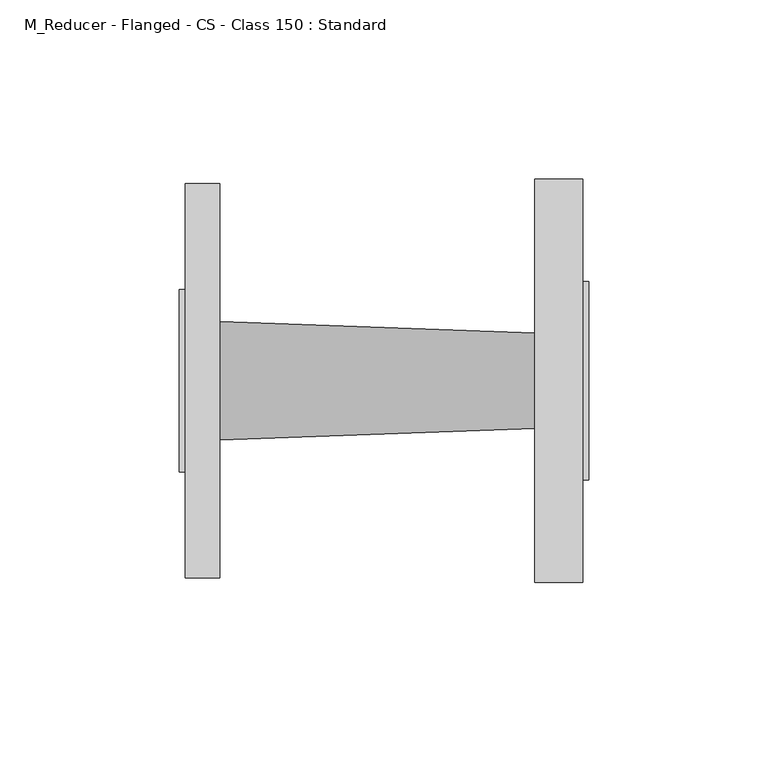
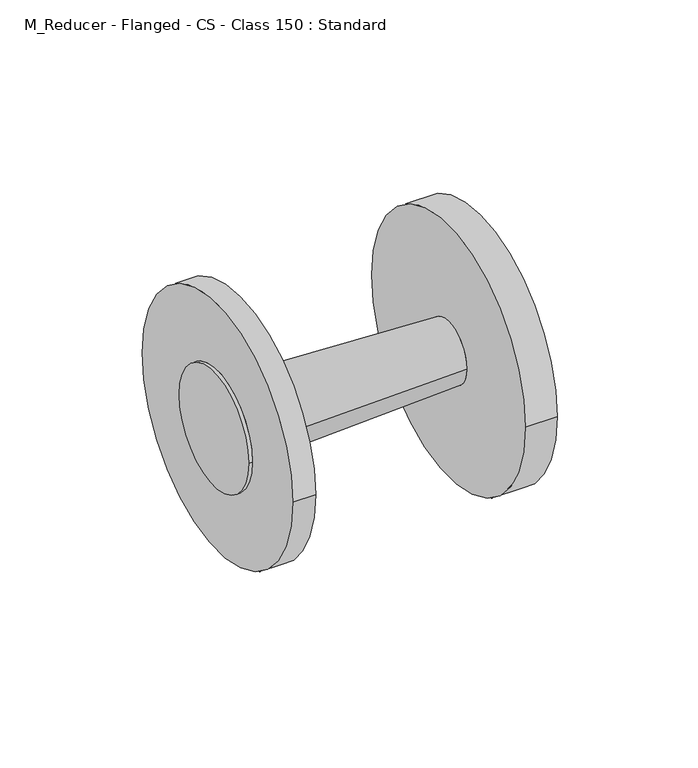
"""IFC4 building model written with IfcOpenShell, lengths in millimetres: pipe fitting geometry, M_Reducer - Flanged - CS - Class 150 : Standard."""

from ifc_helpers import new_model, si_unit, frame, origin, place, context, project, spatial, polyline, circle_curve, source, transform, mapped, element, save
from ifc_brep_helpers import plane_surface, cylinder_surface, revolved_surface, advanced_brep


def m_reducer_flanged_cs_class_150_standard_d42b2106(model_context):
    return source(origin(), model_context, "Body", "AdvancedBrep", [
        advanced_brep(
        [(11.1875, 55.0, 0.0), (11.1875, -55.0, 0.0), (11.1875, -16.5, 0.0), (11.1875, 16.5, 0.0), (1.5875, 55.0, 0.0), (1.5875, -55.0, 0.0), (1.5875, 25.4, 0.0), (1.5875, -25.4, 0.0), (99.0109375, 13.2558594, 0.0), (99.0109375, -13.2558594, 0.0), (112.4125, 56.1554688, 0.0), (112.4125, -56.1554687, 0.0), (112.4125, -27.5976562, 0.0), (112.4125, 27.5976563, 0.0), (99.0109375, 56.1554688, 0.0), (99.0109375, -56.1554687, 0.0), (0.0, 25.4, 0.0), (0.0, -25.4, 0.0), (114.0, 27.5976563, 0.0), (114.0, -27.5976562, 0.0)],
        [
            (0, 1, circle_curve(frame((11.1875, 0.0, 0.0), z_axis=(1.0, 0.0, 0.0), x_axis=(0.0, -1.0, 0.0)), 55.0)),
            (1, 0, circle_curve(frame((11.1875, 0.0, 0.0), z_axis=(1.0, 0.0, 0.0), x_axis=(0.0, -1.0, 0.0)), 55.0)),
            (2, 3, circle_curve(frame((11.1875, 0.0, 0.0), z_axis=(-1.0, 0.0, 0.0), x_axis=(0.0, -1.0, 0.0)), 16.5)),
            (3, 2, circle_curve(frame((11.1875, 0.0, 0.0), z_axis=(-1.0, 0.0, 0.0), x_axis=(0.0, 1.0, 0.0)), 16.5)),
            (4, 5, circle_curve(frame((1.5875, 0.0, 0.0), z_axis=(-1.0, 0.0, 0.0), x_axis=(0.0, -1.0, 0.0)), 55.0)),
            (5, 4, circle_curve(frame((1.5875, 0.0, 0.0), z_axis=(-1.0, 0.0, 0.0), x_axis=(0.0, -1.0, 0.0)), 55.0)),
            (6, 7, circle_curve(frame((1.5875, 0.0, 0.0), z_axis=(1.0, 0.0, 0.0), x_axis=(0.0, -1.0, 0.0)), 25.4)),
            (7, 6, circle_curve(frame((1.5875, 0.0, 0.0), z_axis=(1.0, 0.0, 0.0), x_axis=(0.0, -1.0, 0.0)), 25.4)),
            (1, 5),
            (4, 0),
            (3, 8),
            (8, 9, circle_curve(frame((99.0109375, 0.0, 0.0), z_axis=(-1.0, 0.0, 0.0), x_axis=(0.0, 1.0, 0.0)), 13.2558594)),
            (9, 2),
            (9, 8, circle_curve(frame((99.0109375, 0.0, 0.0), z_axis=(-1.0, 0.0, 0.0), x_axis=(0.0, -1.0, 0.0)), 13.2558594)),
            (10, 11, circle_curve(frame((112.4125, 0.0, 0.0), z_axis=(1.0, 0.0, 0.0), x_axis=(0.0, -1.0, 0.0)), 56.1554687)),
            (11, 10, circle_curve(frame((112.4125, 0.0, 0.0), z_axis=(1.0, 0.0, 0.0), x_axis=(0.0, -1.0, 0.0)), 56.1554687)),
            (12, 13, circle_curve(frame((112.4125, 0.0, 0.0), z_axis=(-1.0, 0.0, 0.0), x_axis=(0.0, -1.0, 0.0)), 27.5976563)),
            (13, 12, circle_curve(frame((112.4125, 0.0, 0.0), z_axis=(-1.0, 0.0, 0.0), x_axis=(0.0, -1.0, 0.0)), 27.5976563)),
            (14, 15, circle_curve(frame((99.0109375, 0.0, 0.0), z_axis=(-1.0, 0.0, 0.0), x_axis=(0.0, -1.0, 0.0)), 56.1554687)),
            (15, 14, circle_curve(frame((99.0109375, 0.0, 0.0), z_axis=(-1.0, 0.0, 0.0), x_axis=(0.0, -1.0, 0.0)), 56.1554687)),
            (11, 15),
            (14, 10),
            (16, 17, circle_curve(frame((0.0, 0.0, 0.0), z_axis=(-1.0, 0.0, 0.0), x_axis=(0.0, -1.0, 0.0)), 25.4)),
            (17, 16, circle_curve(frame((0.0, 0.0, 0.0), z_axis=(-1.0, 0.0, 0.0), x_axis=(0.0, -1.0, 0.0)), 25.4)),
            (16, 6),
            (7, 17),
            (18, 19, circle_curve(frame((114.0, 0.0, 0.0), z_axis=(1.0, 0.0, 0.0), x_axis=(0.0, -1.0, 0.0)), 27.5976563)),
            (19, 18, circle_curve(frame((114.0, 0.0, 0.0), z_axis=(1.0, 0.0, 0.0), x_axis=(0.0, -1.0, 0.0)), 27.5976563)),
            (19, 12),
            (13, 18),
        ],
        [
            plane_surface(frame((11.1875, -55.0, 0.0), z_axis=(1.0, 0.0, 0.0), x_axis=(0.0, 0.0, 1.0))),
            plane_surface(frame((1.5875, -55.0, 0.0), z_axis=(-1.0, 0.0, 0.0), x_axis=(0.0, 0.0, -1.0))),
            cylinder_surface(frame((1.5875, 0.0, 0.0), z_axis=(1.0, 0.0, 0.0), x_axis=(0.0, -1.0, 0.0)), 55.0),
            revolved_surface(polyline([(99.01093750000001, -13.255859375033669, 0.0), (11.1875, -16.5, 0.0)]), (457.8656457, 0.0, 0.0), (-1.0, 0.0, 0.0)),
            revolved_surface(polyline([(99.01093750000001, 13.255859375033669, 0.0), (11.1875, 16.5, 0.0)]), (457.8656457, 0.0, 0.0), (-1.0, 0.0, 0.0)),
            plane_surface(frame((112.4125, -56.1554687, 0.0), z_axis=(1.0, 0.0, 0.0), x_axis=(0.0, 0.0, 1.0))),
            plane_surface(frame((99.0109375, -56.1554687, 0.0), z_axis=(-1.0, 0.0, 0.0), x_axis=(0.0, 0.0, -1.0))),
            cylinder_surface(frame((99.0109375, 0.0, 0.0), z_axis=(1.0, 0.0, 0.0), x_axis=(0.0, -1.0, 0.0)), 56.1554687),
            plane_surface(frame((0.0, -25.4, 0.0), z_axis=(-1.0, 0.0, 0.0), x_axis=(0.0, 0.0, -1.0))),
            cylinder_surface(frame((0.0, 0.0, 0.0), z_axis=(1.0, 0.0, 0.0), x_axis=(0.0, -1.0, 0.0)), 25.4),
            plane_surface(frame((114.0, -27.5976562, 0.0), z_axis=(1.0, 0.0, 0.0), x_axis=(0.0, 0.0, 1.0))),
            cylinder_surface(frame((112.4125, 0.0, 0.0), z_axis=(1.0, 0.0, 0.0), x_axis=(0.0, -1.0, 0.0)), 27.5976563),
        ],
        [
            (0, [[1, 2], [3, 4]]),
            (1, [[5, 6], [7, 8]]),
            (2, [[9, -5, 10, -2]]),
            (2, [[-10, -6, -9, -1]]),
            (3, [[-4, 11, 12, 13]]),
            (4, [[14, -11, -3, -13]]),
            (5, [[15, 16], [17, 18]]),
            (6, [[19, 20], [-14, -12]]),
            (7, [[21, -19, 22, -16]]),
            (7, [[-22, -20, -21, -15]]),
            (8, [[23, 24]]),
            (9, [[25, -8, 26, -23]]),
            (9, [[-26, -7, -25, -24]]),
            (10, [[27, 28]]),
            (11, [[29, -18, 30, -28]]),
            (11, [[-30, -17, -29, -27]]),
        ],
    ),
    ])


if __name__ == "__main__":
    model = new_model("IFC4")
    model_context = context("Model", 3, world=origin())
    ifc_project = project(units=[si_unit("LENGTHUNIT", "METRE", prefix="MILLI")], contexts=[model_context])
    site = spatial("IfcSite", under=ifc_project)
    building = spatial("IfcBuilding", under=site)
    placement = place(None, origin())
    m_reducer_flanged_cs_class_150_standard_shape = m_reducer_flanged_cs_class_150_standard_d42b2106(model_context)
    element("IfcPipeFitting", 1, ObjectType="M_Reducer - Flanged - CS - Class 150 : Standard", at=placement, inside=building, context=model_context, shape_type="MappedRepresentation", body=[
        mapped(m_reducer_flanged_cs_class_150_standard_shape, transform((0.0, 0.0, 0.0), x_axis=(1.0, 0.0, 0.0), y_axis=(0.0, 1.0, 0.0), z_axis=(0.0, 0.0, 1.0))),
    ])
    save(model, "model.ifc")
